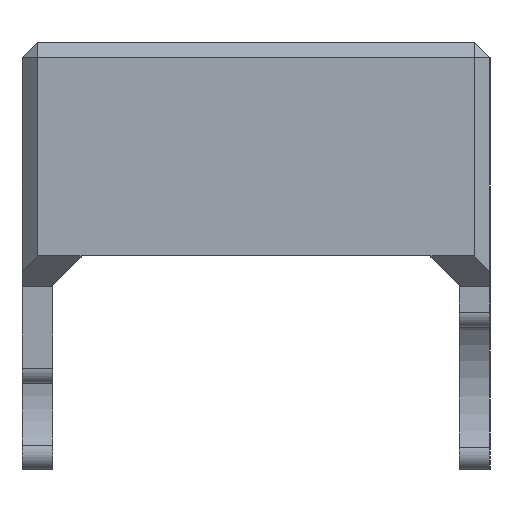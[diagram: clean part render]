
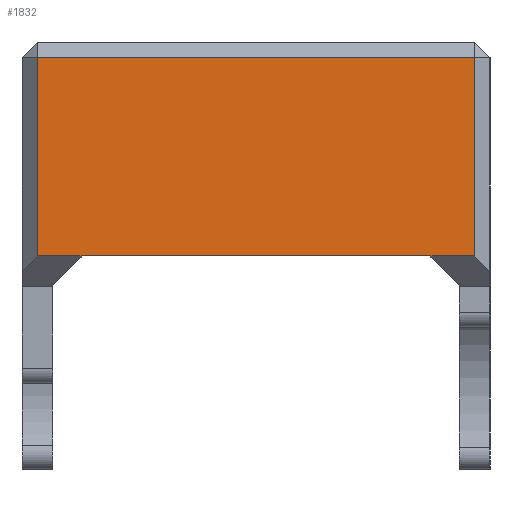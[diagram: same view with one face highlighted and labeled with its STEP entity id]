
A CAD part, left-side view. The second image highlights one B-rep face of the part: STEP entity #1832.
In plain terms, the highlighted planar face has unit normal (-1, 0, 0).
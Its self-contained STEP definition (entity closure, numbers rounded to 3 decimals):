
#123=PLANE('',#2028);
#222=FACE_OUTER_BOUND('',#364,.T.);
#364=EDGE_LOOP('',(#1691,#1692,#1693,#1694,#1695,#1696));
#497=LINE('',#3033,#657);
#498=LINE('',#3035,#658);
#500=LINE('',#3039,#660);
#505=LINE('',#3050,#665);
#517=LINE('',#3072,#677);
#518=LINE('',#3074,#678);
#657=VECTOR('',#2509,10.);
#658=VECTOR('',#2512,10.);
#660=VECTOR('',#2516,10.);
#665=VECTOR('',#2527,10.);
#677=VECTOR('',#2553,10.);
#678=VECTOR('',#2556,10.);
#920=VERTEX_POINT('',#2999);
#921=VERTEX_POINT('',#3004);
#926=VERTEX_POINT('',#3031);
#927=VERTEX_POINT('',#3037);
#930=VERTEX_POINT('',#3049);
#933=VERTEX_POINT('',#3068);
#1162=EDGE_CURVE('',#926,#921,#497,.T.);
#1163=EDGE_CURVE('',#921,#920,#498,.T.);
#1165=EDGE_CURVE('',#920,#927,#500,.T.);
#1170=EDGE_CURVE('',#930,#927,#505,.T.);
#1182=EDGE_CURVE('',#933,#930,#517,.T.);
#1183=EDGE_CURVE('',#926,#933,#518,.T.);
#1691=ORIENTED_EDGE('',*,*,#1162,.F.);
#1692=ORIENTED_EDGE('',*,*,#1183,.T.);
#1693=ORIENTED_EDGE('',*,*,#1182,.T.);
#1694=ORIENTED_EDGE('',*,*,#1170,.T.);
#1695=ORIENTED_EDGE('',*,*,#1165,.F.);
#1696=ORIENTED_EDGE('',*,*,#1163,.F.);
#1832=ADVANCED_FACE('',(#222),#123,.T.);
#2028=AXIS2_PLACEMENT_3D('',#3090,#2576,#2577);
#2509=DIRECTION('',(0.,0.,1.));
#2512=DIRECTION('',(0.,-1.,0.));
#2516=DIRECTION('',(0.,0.,-1.));
#2527=DIRECTION('',(0.,-1.,0.));
#2553=DIRECTION('',(0.,-1.,0.));
#2556=DIRECTION('',(0.,-1.,0.));
#2576=DIRECTION('center_axis',(-1.,0.,0.));
#2577=DIRECTION('ref_axis',(0.,0.,1.));
#2999=CARTESIAN_POINT('',(-88.,-21.5,23.5));
#3004=CARTESIAN_POINT('',(-88.,21.5,23.5));
#3031=CARTESIAN_POINT('',(-88.,21.5,4.));
#3033=CARTESIAN_POINT('',(-88.,21.5,10.25));
#3035=CARTESIAN_POINT('',(-88.,-11.5,23.5));
#3037=CARTESIAN_POINT('',(-88.,-21.5,4.));
#3039=CARTESIAN_POINT('',(-88.,-21.5,10.25));
#3049=CARTESIAN_POINT('',(-88.,-17.1,4.));
#3050=CARTESIAN_POINT('',(-88.,-23.,4.));
#3068=CARTESIAN_POINT('',(-88.,17.1,4.));
#3072=CARTESIAN_POINT('',(-88.,-23.,4.));
#3074=CARTESIAN_POINT('',(-88.,-23.,4.));
#3090=CARTESIAN_POINT('Origin',(-88.,0.,14.5));
